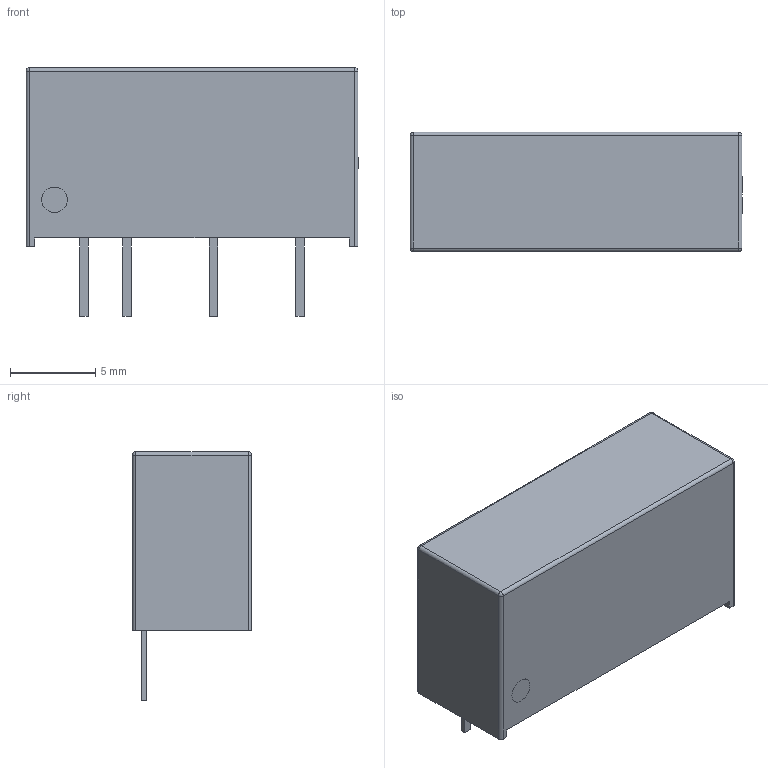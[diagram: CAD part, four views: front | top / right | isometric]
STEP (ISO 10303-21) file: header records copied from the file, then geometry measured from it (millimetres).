
FILE_DESCRIPTION (( 'STEP AP214' ), '1' );
FILE_NAME ('PWRM-TH_HLK-IBXXXXS-2WR3.STEP', '2023-09-28T14:26:44', ( '微软用户' ), ( '微软中国' ), 'SwSTEP 2.0', 'SolidWorks 2020', '' );
FILE_SCHEMA (( 'AUTOMOTIVE_DESIGN' ));
Length unit declared in the file: millimetre
Products named in the file (1): PWRM-TH_HLK-IBXXXXS-2WR3
Bounding box: 19.5 x 7 x 14.6 mm (x, y, z)
Volume: 1370.4 mm3; surface area: 839.2 mm2
Topology: 1 solids, 1 shells, 269 faces, 721 edges, 474 vertices
Faces by surface type: plane 157, bspline 98, cylinder 10, sphere 4
Entity records: 11800 total; most frequent: CARTESIAN_POINT 2767, ORIENTED_EDGE 1434, DIRECTION 881, EDGE_CURVE 717, VECTOR 497, LINE 497, VERTEX_POINT 474, EDGE_LOOP 293
